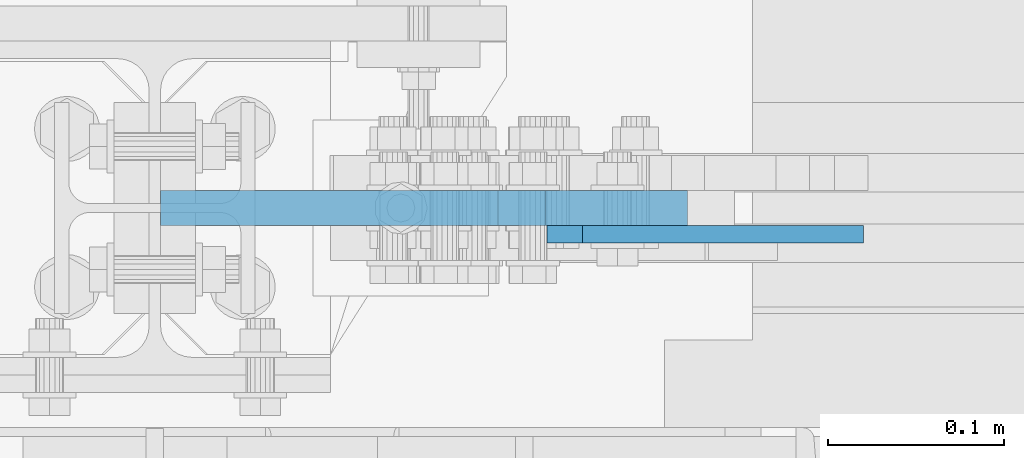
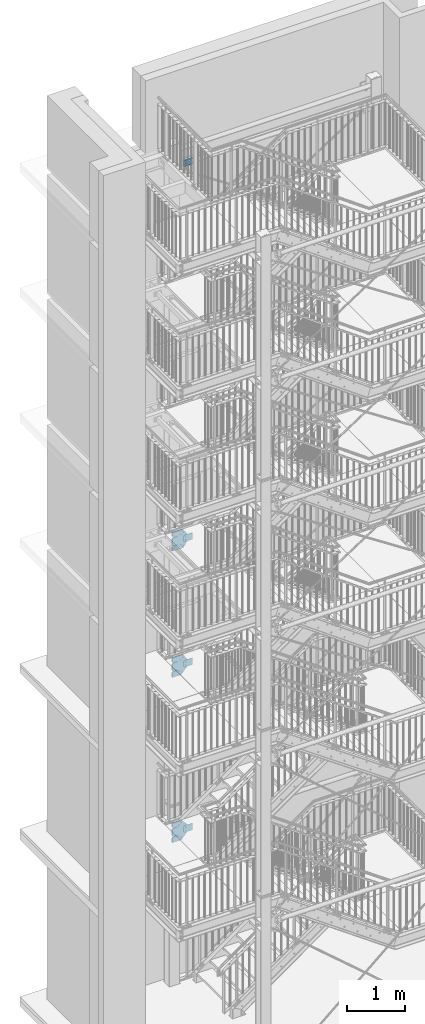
# One storey, part 181 of 825: 7 plates, 40 openings.
"""IFC2X3 building model written with IfcOpenShell, lengths in millimetres."""

from ifc_helpers import new_model, entity, si_unit, converted_unit, point, frame, frame_2d, origin, origin_with_axes, place, context, project, spatial, polyline, circle_curve, line_curve, trimmed, segment, composite_curve, circle, outline, extrude, material, layer, layer_set, element, save


model = new_model("IFC2X3")

# Units and contexts
model_context = context("Model", 3, precision=1e-09, world=origin_with_axes())
ifc_project = project(units=[si_unit("LENGTHUNIT", "METRE", prefix="MILLI"), si_unit("AREAUNIT", "SQUARE_METRE"), si_unit("VOLUMEUNIT", "CUBIC_METRE"), converted_unit("PLANEANGLEUNIT", "DEGREE", entity("IfcPlaneAngleMeasure", 0.01745329), si_unit("PLANEANGLEUNIT", "RADIAN"), dimensions=[0, 0, 0, 0, 0, 0, 0])], contexts=[model_context])

# Site, building, storey
site_placement = place(None, origin_with_axes())
site = spatial("IfcSite", under=ifc_project, at=site_placement, Name="Cnopf'sche Kinderklinik", CompositionType="ELEMENT")
building_placement = place(site_placement, origin_with_axes())
building = spatial("IfcBuilding", under=site, at=building_placement, Name="Struktur 1", CompositionType="ELEMENT")
storey_placement = place(building_placement, origin_with_axes())
storey = spatial("IfcBuildingStorey", under=building, at=storey_placement, Name="Default Storey", CompositionType="ELEMENT", Elevation=0.0)

# Plate, openings
ifc_material = material(Name="S235JR")
ifc_layer_1 = layer(ifc_material, 10.0)
ifc_layer_set_1 = layer_set([ifc_layer_1], Name="S235JR")
plate_1_placement = place(None, frame((5169.963401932, 7506.736971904, 17498.999996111), z_axis=(0.0, 1.0, 0.0), x_axis=(-1.0, 0.0, 0.0)))
plate_1 = element("IfcPlate", 1, at=plate_1_placement, inside=storey, material=ifc_layer_set_1, Name="-", ObjectType="-", context=model_context, shape_type="SweptSolid", body=[
    extrude(outline(polyline([(-90.0, -70.0), (90.0, -70.0), (90.0, 70.0), (-90.0, 70.0), (-90.0, -70.0)])), origin_with_axes(), (0.0, 0.0, -1.0), 10.0),
])
opening_1_placement = place(plate_1_placement, frame((90.0, -70.0, 0.01), z_axis=(0.0, 0.0, 1.0), x_axis=(0.0, 1.0, 0.0)))
element("IfcOpeningElement", 2, at=opening_1_placement, cuts=plate_1, ObjectType="Opening", context=model_context, shape_type="SweptSolid", body=[
    extrude(outline(polyline([(0.0, 0.0), (20.0, 0.0), (0.0, 20.0), (0.0, 0.0)])), origin(), (0.0, 0.0, -1.0), 10.02),
])
opening_2_placement = place(plate_1_placement, frame((90.0, 70.0, 0.01), z_axis=(0.0, 0.0, 1.0), x_axis=(-1.0, 0.0, 0.0)))
element("IfcOpeningElement", 3, at=opening_2_placement, cuts=plate_1, ObjectType="Opening", context=model_context, shape_type="SweptSolid", body=[
    extrude(outline(polyline([(0.0, 0.0), (20.0, 0.0), (0.0, 20.0), (0.0, 0.0)])), origin(), (0.0, 0.0, -1.0), 10.02),
])
opening_3_placement = place(plate_1_placement, frame((40.999, 30.0, 0.5), z_axis=(0.0, 0.0, 1.0), x_axis=(1.0, 0.0, 0.0)))
element("IfcOpeningElement", 4, at=opening_3_placement, cuts=plate_1, ObjectType="Opening", context=model_context, shape_type="SweptSolid", body=[
    extrude(circle(Radius=9.001, at=frame_2d((9.001, 0.0), x_axis=(1.0, 0.0))), origin(), (0.0, 0.0, -1.0), 11.0),
])
opening_4_placement = place(plate_1_placement, frame((40.999, -30.0, 0.5), z_axis=(0.0, 0.0, 1.0), x_axis=(1.0, 0.0, 0.0)))
element("IfcOpeningElement", 5, at=opening_4_placement, cuts=plate_1, ObjectType="Opening", context=model_context, shape_type="SweptSolid", body=[
    extrude(circle(Radius=9.001, at=frame_2d((9.001, 0.0), x_axis=(1.0, 0.0))), origin(), (0.0, 0.0, -1.0), 11.0),
])

plate_2_placement = place(None, frame((5169.963401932, 7506.736971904, 6984.999996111), z_axis=(0.0, 1.0, 0.0), x_axis=(-1.0, 0.0, 0.0)))
plate_2 = element("IfcPlate", 6, at=plate_2_placement, inside=storey, material=ifc_layer_set_1, Name="-", ObjectType="-", context=model_context, shape_type="SweptSolid", body=[
    extrude(outline(polyline([(-90.0, -70.0), (90.0, -70.0), (90.0, 70.0), (-90.0, 70.0), (-90.0, -70.0)])), origin_with_axes(), (0.0, 0.0, -1.0), 10.0),
])
opening_5_placement = place(plate_2_placement, frame((90.0, -70.0, 0.01), z_axis=(0.0, 0.0, 1.0), x_axis=(0.0, 1.0, 0.0)))
element("IfcOpeningElement", 7, at=opening_5_placement, cuts=plate_2, ObjectType="Opening", context=model_context, shape_type="SweptSolid", body=[
    extrude(outline(polyline([(0.0, 0.0), (20.0, 0.0), (0.0, 20.0), (0.0, 0.0)])), origin(), (0.0, 0.0, -1.0), 10.02),
])
opening_6_placement = place(plate_2_placement, frame((90.0, 70.0, 0.01), z_axis=(0.0, 0.0, 1.0), x_axis=(-1.0, 0.0, 0.0)))
element("IfcOpeningElement", 8, at=opening_6_placement, cuts=plate_2, ObjectType="Opening", context=model_context, shape_type="SweptSolid", body=[
    extrude(outline(polyline([(0.0, 0.0), (20.0, 0.0), (0.0, 20.0), (0.0, 0.0)])), origin(), (0.0, 0.0, -1.0), 10.02),
])
opening_7_placement = place(plate_2_placement, frame((40.999, 30.0, 0.5), z_axis=(0.0, 0.0, 1.0), x_axis=(1.0, 0.0, 0.0)))
element("IfcOpeningElement", 9, at=opening_7_placement, cuts=plate_2, ObjectType="Opening", context=model_context, shape_type="SweptSolid", body=[
    extrude(circle(Radius=9.001, at=frame_2d((9.001, 0.0), x_axis=(1.0, 0.0))), origin(), (0.0, 0.0, -1.0), 11.0),
])
opening_8_placement = place(plate_2_placement, frame((40.999, -30.0, 0.5), z_axis=(0.0, 0.0, 1.0), x_axis=(1.0, 0.0, 0.0)))
element("IfcOpeningElement", 10, at=opening_8_placement, cuts=plate_2, ObjectType="Opening", context=model_context, shape_type="SweptSolid", body=[
    extrude(circle(Radius=9.001, at=frame_2d((9.001, 0.0), x_axis=(1.0, 0.0))), origin(), (0.0, 0.0, -1.0), 11.0),
])

plate_3_placement = place(None, frame((5169.963401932, 7506.736971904, 3511.999996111), z_axis=(0.0, 1.0, 0.0), x_axis=(-1.0, 0.0, 0.0)))
plate_3 = element("IfcPlate", 11, at=plate_3_placement, inside=storey, material=ifc_layer_set_1, Name="-", ObjectType="-", context=model_context, shape_type="SweptSolid", body=[
    extrude(outline(polyline([(-90.0, -70.0), (90.0, -70.0), (90.0, 70.0), (-90.0, 70.0), (-90.0, -70.0)])), origin_with_axes(), (0.0, 0.0, -1.0), 10.0),
])
opening_9_placement = place(plate_3_placement, frame((90.0, -70.0, 0.01), z_axis=(0.0, 0.0, 1.0), x_axis=(0.0, 1.0, 0.0)))
element("IfcOpeningElement", 12, at=opening_9_placement, cuts=plate_3, ObjectType="Opening", context=model_context, shape_type="SweptSolid", body=[
    extrude(outline(polyline([(0.0, 0.0), (20.0, 0.0), (0.0, 20.0), (0.0, 0.0)])), origin(), (0.0, 0.0, -1.0), 10.02),
])
opening_10_placement = place(plate_3_placement, frame((90.0, 70.0, 0.01), z_axis=(0.0, 0.0, 1.0), x_axis=(-1.0, 0.0, 0.0)))
element("IfcOpeningElement", 13, at=opening_10_placement, cuts=plate_3, ObjectType="Opening", context=model_context, shape_type="SweptSolid", body=[
    extrude(outline(polyline([(0.0, 0.0), (20.0, 0.0), (0.0, 20.0), (0.0, 0.0)])), origin(), (0.0, 0.0, -1.0), 10.02),
])
opening_11_placement = place(plate_3_placement, frame((40.999, 30.0, 0.5), z_axis=(0.0, 0.0, 1.0), x_axis=(1.0, 0.0, 0.0)))
element("IfcOpeningElement", 14, at=opening_11_placement, cuts=plate_3, ObjectType="Opening", context=model_context, shape_type="SweptSolid", body=[
    extrude(circle(Radius=9.001, at=frame_2d((9.001, 0.0), x_axis=(1.0, 0.0))), origin(), (0.0, 0.0, -1.0), 11.0),
])
opening_12_placement = place(plate_3_placement, frame((40.999, -30.0, 0.5), z_axis=(0.0, 0.0, 1.0), x_axis=(1.0, 0.0, 0.0)))
element("IfcOpeningElement", 15, at=opening_12_placement, cuts=plate_3, ObjectType="Opening", context=model_context, shape_type="SweptSolid", body=[
    extrude(circle(Radius=9.001, at=frame_2d((9.001, 0.0), x_axis=(1.0, 0.0))), origin(), (0.0, 0.0, -1.0), 11.0),
])

plate_4_placement = place(None, frame((5169.963401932, 7506.736971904, 9616.999996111), z_axis=(0.0, 1.0, 0.0), x_axis=(-1.0, 0.0, 0.0)))
plate_4 = element("IfcPlate", 16, at=plate_4_placement, inside=storey, material=ifc_layer_set_1, Name="-", ObjectType="-", context=model_context, shape_type="SweptSolid", body=[
    extrude(outline(polyline([(-90.0, -70.0), (90.0, -70.0), (90.0, 70.0), (-90.0, 70.0), (-90.0, -70.0)])), origin_with_axes(), (0.0, 0.0, -1.0), 10.0),
])
opening_13_placement = place(plate_4_placement, frame((90.0, -70.0, 0.01), z_axis=(0.0, 0.0, 1.0), x_axis=(0.0, 1.0, 0.0)))
element("IfcOpeningElement", 17, at=opening_13_placement, cuts=plate_4, ObjectType="Opening", context=model_context, shape_type="SweptSolid", body=[
    extrude(outline(polyline([(0.0, 0.0), (20.0, 0.0), (0.0, 20.0), (0.0, 0.0)])), origin(), (0.0, 0.0, -1.0), 10.02),
])
opening_14_placement = place(plate_4_placement, frame((90.0, 70.0, 0.01), z_axis=(0.0, 0.0, 1.0), x_axis=(-1.0, 0.0, 0.0)))
element("IfcOpeningElement", 18, at=opening_14_placement, cuts=plate_4, ObjectType="Opening", context=model_context, shape_type="SweptSolid", body=[
    extrude(outline(polyline([(0.0, 0.0), (20.0, 0.0), (0.0, 20.0), (0.0, 0.0)])), origin(), (0.0, 0.0, -1.0), 10.02),
])
opening_15_placement = place(plate_4_placement, frame((40.999, 30.0, 0.5), z_axis=(0.0, 0.0, 1.0), x_axis=(1.0, 0.0, 0.0)))
element("IfcOpeningElement", 19, at=opening_15_placement, cuts=plate_4, ObjectType="Opening", context=model_context, shape_type="SweptSolid", body=[
    extrude(circle(Radius=9.001, at=frame_2d((9.001, 0.0), x_axis=(1.0, 0.0))), origin(), (0.0, 0.0, -1.0), 11.0),
])
opening_16_placement = place(plate_4_placement, frame((40.999, -30.0, 0.5), z_axis=(0.0, 0.0, 1.0), x_axis=(1.0, 0.0, 0.0)))
element("IfcOpeningElement", 20, at=opening_16_placement, cuts=plate_4, ObjectType="Opening", context=model_context, shape_type="SweptSolid", body=[
    extrude(circle(Radius=9.001, at=frame_2d((9.001, 0.0), x_axis=(1.0, 0.0))), origin(), (0.0, 0.0, -1.0), 11.0),
])

ifc_layer_2 = layer(ifc_material, 20.0)
ifc_layer_set_2 = layer_set([ifc_layer_2], Name="S235JR")
plate_5_placement = place(None, frame((4859.963402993, 7506.736971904, 3302.430347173), z_axis=(0.0, 1.0, 0.0), x_axis=(0.0, 0.0, 1.0)))
plate_5 = element("IfcPlate", 21, at=plate_5_placement, inside=storey, material=ifc_layer_set_2, Name="-", ObjectType="-", context=model_context, shape_type="SweptSolid", body=[
    extrude(outline(polyline([(0.0, 0.0), (403.206365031, 0.0), (403.206365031, 192.087654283), (279.569648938, 300.0), (139.569648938, 300.0), (0.0, 181.139563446), (0.0, 0.0)])), origin_with_axes(), (0.0, 0.0, 1.0), 20.0),
])
opening_17_placement = place(plate_5_placement, frame((0.0, 0.0, -0.1), z_axis=(0.0, 0.0, 1.0), x_axis=(0.0, -1.0, 0.0)))
element("IfcOpeningElement", 22, at=opening_17_placement, cuts=plate_5, ObjectType="Opening", context=model_context, shape_type="SweptSolid", body=[
    extrude(outline(composite_curve([segment(trimmed(line_curve((20.001, 145.570652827), (-1.0, 0.0), 20.001414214), [point((20.001, 145.570652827))], [point((-0.000414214, 145.570652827))], True, "CARTESIAN"), True, "CONTINUOUS"), segment(trimmed(line_curve((-0.000414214, 145.570652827), (-0.707106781, -0.707106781), 28.284271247), [point((-0.000414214, 145.570652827))], [point((-20.000414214, 125.570652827))], True, "CARTESIAN"), True, "CONTINUOUS"), segment(trimmed(line_curve((-20.000414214, 125.570652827), (-1.0, 0.0), 77.749585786), [point((-20.000414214, 125.570652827))], [point((-97.75, 125.570652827))], True, "CARTESIAN"), True, "CONTINUOUS"), segment(trimmed(circle_curve(frame_2d((-97.75, 119.569652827), x_axis=(1.0, 0.0)), 6.001), [point((-97.75, 125.570652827))], [point((-97.75, 113.568652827))], True, "CARTESIAN"), True, "CONTINUOUS"), segment(trimmed(line_curve((-97.75, 113.568652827), (1.0, 0.0), 77.749585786), [point((-97.75, 113.568652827))], [point((-20.000414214, 113.568652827))], True, "CARTESIAN"), True, "CONTINUOUS"), segment(trimmed(line_curve((-20.000414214, 113.568652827), (0.707106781, -0.707106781), 28.284271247), [point((-20.000414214, 113.568652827))], [point((-0.000414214, 93.568652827))], True, "CARTESIAN"), True, "CONTINUOUS"), segment(trimmed(line_curve((-0.000414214, 93.568652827), (1.0, 0.0), 20.001414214), [point((-0.000414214, 93.568652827))], [point((20.001, 93.568652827))], True, "CARTESIAN"), True, "CONTINUOUS"), segment(trimmed(line_curve((20.001, 93.568652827), (0.0, 1.0), 52.002), [point((20.001, 93.568652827))], [point((20.001, 145.570652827))], True, "CARTESIAN"), True, "CONTINUOUS")], self_intersect=False)), origin(), (0.0, 0.0, 1.0), 20.2),
])
opening_18_placement = place(plate_5_placement, frame((0.0, 0.0, -0.1), z_axis=(0.0, 0.0, 1.0), x_axis=(0.0, -1.0, 0.0)))
element("IfcOpeningElement", 23, at=opening_18_placement, cuts=plate_5, ObjectType="Opening", context=model_context, shape_type="SweptSolid", body=[
    extrude(outline(composite_curve([segment(trimmed(line_curve((20.001, 325.570652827), (-1.0, 0.0), 20.001414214), [point((20.001, 325.570652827))], [point((-0.000414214, 325.570652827))], True, "CARTESIAN"), True, "CONTINUOUS"), segment(trimmed(line_curve((-0.000414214, 325.570652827), (-0.707106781, -0.707106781), 28.284271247), [point((-0.000414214, 325.570652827))], [point((-20.000414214, 305.570652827))], True, "CARTESIAN"), True, "CONTINUOUS"), segment(trimmed(line_curve((-20.000414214, 305.570652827), (-1.0, 0.0), 77.749584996), [point((-20.000414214, 305.570652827))], [point((-97.749999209, 305.570652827))], True, "CARTESIAN"), True, "CONTINUOUS"), segment(trimmed(circle_curve(frame_2d((-97.75, 299.569652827), x_axis=(1.0, 0.0)), 6.001), [point((-97.749999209, 305.570652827))], [point((-97.75, 293.568652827))], True, "CARTESIAN"), True, "CONTINUOUS"), segment(trimmed(line_curve((-97.75, 293.568652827), (1.0, 0.0), 77.749585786), [point((-97.75, 293.568652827))], [point((-20.000414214, 293.568652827))], True, "CARTESIAN"), True, "CONTINUOUS"), segment(trimmed(line_curve((-20.000414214, 293.568652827), (0.707106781, -0.707106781), 28.284271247), [point((-20.000414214, 293.568652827))], [point((-0.000414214, 273.568652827))], True, "CARTESIAN"), True, "CONTINUOUS"), segment(trimmed(line_curve((-0.000414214, 273.568652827), (1.0, 0.0), 20.001414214), [point((-0.000414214, 273.568652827))], [point((20.001, 273.568652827))], True, "CARTESIAN"), True, "CONTINUOUS"), segment(trimmed(line_curve((20.001, 273.568652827), (0.0, 1.0), 52.002), [point((20.001, 273.568652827))], [point((20.001, 325.570652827))], True, "CARTESIAN"), True, "CONTINUOUS")], self_intersect=False)), origin(), (0.0, 0.0, 1.0), 20.2),
])
opening_19_placement = place(plate_5_placement, frame((239.569648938, 269.000998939, 20.5), z_axis=(0.0, 0.0, 1.0), x_axis=(1.0, 0.0, 0.0)))
element("IfcOpeningElement", 24, at=opening_19_placement, cuts=plate_5, ObjectType="Opening", context=model_context, shape_type="SweptSolid", body=[
    extrude(circle(Radius=9.001, at=frame_2d((0.0, -9.001), x_axis=(1.0, 0.0))), origin(), (0.0, 0.0, -1.0), 21.0),
])
opening_20_placement = place(plate_5_placement, frame((179.569648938, 269.000998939, 20.5), z_axis=(0.0, 0.0, 1.0), x_axis=(1.0, 0.0, 0.0)))
element("IfcOpeningElement", 25, at=opening_20_placement, cuts=plate_5, ObjectType="Opening", context=model_context, shape_type="SweptSolid", body=[
    extrude(circle(Radius=9.001, at=frame_2d((0.0, -9.001), x_axis=(1.0, 0.0))), origin(), (0.0, 0.0, -1.0), 21.0),
])
opening_21_placement = place(plate_5_placement, frame((346.603005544, 154.971640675, 20.5), z_axis=(0.0, 0.0, -1.0), x_axis=(0.654679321, 0.755906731, 0.0)))
element("IfcOpeningElement", 26, at=opening_21_placement, cuts=plate_5, ObjectType="Opening", context=model_context, shape_type="SweptSolid", body=[
    extrude(circle(Radius=9.001, at=frame_2d((30.0, 0.0), x_axis=(1.0, 0.0))), origin(), (0.0, 0.0, 1.0), 21.0),
])
opening_22_placement = place(plate_5_placement, frame((346.603005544, 154.971640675, 20.5), z_axis=(0.0, 0.0, -1.0), x_axis=(0.654679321, 0.755906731, 0.0)))
element("IfcOpeningElement", 27, at=opening_22_placement, cuts=plate_5, ObjectType="Opening", context=model_context, shape_type="SweptSolid", body=[
    extrude(circle(Radius=9.001, at=frame_2d((-30.0, 0.0), x_axis=(1.0, 0.0))), origin(), (0.0, 0.0, 1.0), 21.0),
])
opening_23_placement = place(plate_5_placement, frame((58.040085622, 172.773623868, 20.5), z_axis=(0.0, 0.0, 1.0), x_axis=(1.0, 0.0, 0.0)))
element("IfcOpeningElement", 28, at=opening_23_placement, cuts=plate_5, ObjectType="Opening", context=model_context, shape_type="SweptSolid", body=[
    extrude(circle(Radius=9.001, at=frame_2d((-5.872329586, 6.821564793), x_axis=(1.0, 0.0))), origin(), (0.0, 0.0, -1.0), 21.0),
])
opening_24_placement = place(plate_5_placement, frame((97.18460014, 127.301577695, 20.5), z_axis=(0.0, 0.0, 1.0), x_axis=(1.0, 0.0, 0.0)))
element("IfcOpeningElement", 29, at=opening_24_placement, cuts=plate_5, ObjectType="Opening", context=model_context, shape_type="SweptSolid", body=[
    extrude(circle(Radius=9.001, at=frame_2d((-5.872329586, 6.821564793), x_axis=(1.0, 0.0))), origin(), (0.0, 0.0, -1.0), 21.0),
])

plate_6_placement = place(None, frame((4859.963402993, 7526.736971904, 7178.428402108), z_axis=(0.0, -1.0, 0.0), x_axis=(0.0, 0.0, -1.0)))
plate_6 = element("IfcPlate", 30, at=plate_6_placement, inside=storey, material=ifc_layer_set_2, Name="-", ObjectType="-", context=model_context, shape_type="SweptSolid", body=[
    extrude(outline(polyline([(0.0, 0.0), (404.06512209, 0.0), (404.06512209, 177.249749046), (263.428405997, 300.0), (123.428405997, 300.0), (0.0, 219.202103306), (0.0, 0.0)])), origin_with_axes(), (0.0, 0.0, 1.0), 20.0),
])
opening_25_placement = place(plate_6_placement, frame((0.0, 0.0, 20.1), z_axis=(0.0, 0.0, -1.0), x_axis=(0.0, -1.0, 0.0)))
element("IfcOpeningElement", 31, at=opening_25_placement, cuts=plate_6, ObjectType="Opening", context=model_context, shape_type="SweptSolid", body=[
    extrude(outline(composite_curve([segment(trimmed(line_curve((20.001, -257.427402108), (-1.0, 0.0), 20.001414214), [point((20.001, -257.427402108))], [point((-0.000414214, -257.427402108))], True, "CARTESIAN"), True, "CONTINUOUS"), segment(trimmed(line_curve((-0.000414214, -257.427402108), (-0.707106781, -0.707106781), 28.284271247), [point((-0.000414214, -257.427402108))], [point((-20.000414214, -277.427402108))], True, "CARTESIAN"), True, "CONTINUOUS"), segment(trimmed(line_curve((-20.000414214, -277.427402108), (-1.0, 0.0), 77.749584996), [point((-20.000414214, -277.427402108))], [point((-97.749999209, -277.427402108))], True, "CARTESIAN"), True, "CONTINUOUS"), segment(trimmed(circle_curve(frame_2d((-97.75, -283.428402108), x_axis=(1.0, 0.0)), 6.001), [point((-97.749999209, -277.427402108))], [point((-97.75, -289.429402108))], True, "CARTESIAN"), True, "CONTINUOUS"), segment(trimmed(line_curve((-97.75, -289.429402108), (1.0, 0.0), 77.749585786), [point((-97.75, -289.429402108))], [point((-20.000414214, -289.429402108))], True, "CARTESIAN"), True, "CONTINUOUS"), segment(trimmed(line_curve((-20.000414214, -289.429402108), (0.707106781, -0.707106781), 28.284271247), [point((-20.000414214, -289.429402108))], [point((-0.000414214, -309.429402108))], True, "CARTESIAN"), True, "CONTINUOUS"), segment(trimmed(line_curve((-0.000414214, -309.429402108), (1.0, 0.0), 20.001414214), [point((-0.000414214, -309.429402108))], [point((20.001, -309.429402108))], True, "CARTESIAN"), True, "CONTINUOUS"), segment(trimmed(line_curve((20.001, -309.429402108), (0.0, 1.0), 52.002), [point((20.001, -309.429402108))], [point((20.001, -257.427402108))], True, "CARTESIAN"), True, "CONTINUOUS")], self_intersect=False)), origin(), (0.0, 0.0, 1.0), 20.2),
])
opening_26_placement = place(plate_6_placement, frame((0.0, 0.0, 20.1), z_axis=(0.0, 0.0, -1.0), x_axis=(0.0, -1.0, 0.0)))
element("IfcOpeningElement", 32, at=opening_26_placement, cuts=plate_6, ObjectType="Opening", context=model_context, shape_type="SweptSolid", body=[
    extrude(outline(composite_curve([segment(trimmed(line_curve((20.001, -77.427402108), (-1.0, 0.0), 20.001414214), [point((20.001, -77.427402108))], [point((-0.000414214, -77.427402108))], True, "CARTESIAN"), True, "CONTINUOUS"), segment(trimmed(line_curve((-0.000414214, -77.427402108), (-0.707106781, -0.707106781), 28.284271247), [point((-0.000414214, -77.427402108))], [point((-20.000414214, -97.427402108))], True, "CARTESIAN"), True, "CONTINUOUS"), segment(trimmed(line_curve((-20.000414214, -97.427402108), (-1.0, 0.0), 77.749585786), [point((-20.000414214, -97.427402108))], [point((-97.75, -97.427402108))], True, "CARTESIAN"), True, "CONTINUOUS"), segment(trimmed(circle_curve(frame_2d((-97.75, -103.428402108), x_axis=(1.0, 0.0)), 6.001), [point((-97.75, -97.427402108))], [point((-97.75, -109.429402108))], True, "CARTESIAN"), True, "CONTINUOUS"), segment(trimmed(line_curve((-97.75, -109.429402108), (1.0, 0.0), 77.749585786), [point((-97.75, -109.429402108))], [point((-20.000414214, -109.429402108))], True, "CARTESIAN"), True, "CONTINUOUS"), segment(trimmed(line_curve((-20.000414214, -109.429402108), (0.707106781, -0.707106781), 28.284271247), [point((-20.000414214, -109.429402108))], [point((-0.000414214, -129.429402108))], True, "CARTESIAN"), True, "CONTINUOUS"), segment(trimmed(line_curve((-0.000414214, -129.429402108), (1.0, 0.0), 20.001414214), [point((-0.000414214, -129.429402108))], [point((20.001, -129.429402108))], True, "CARTESIAN"), True, "CONTINUOUS"), segment(trimmed(line_curve((20.001, -129.429402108), (0.0, 1.0), 52.002), [point((20.001, -129.429402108))], [point((20.001, -77.427402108))], True, "CARTESIAN"), True, "CONTINUOUS")], self_intersect=False)), origin(), (0.0, 0.0, 1.0), 20.2),
])
opening_27_placement = place(plate_6_placement, frame((163.428405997, 269.000998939, -0.5), z_axis=(0.0, 0.0, -1.0), x_axis=(-1.0, 0.0, 0.0)))
element("IfcOpeningElement", 33, at=opening_27_placement, cuts=plate_6, ObjectType="Opening", context=model_context, shape_type="SweptSolid", body=[
    extrude(circle(Radius=9.001, at=frame_2d((0.0, -9.001), x_axis=(1.0, 0.0))), origin(), (0.0, 0.0, -1.0), 21.0),
])
opening_28_placement = place(plate_6_placement, frame((223.428405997, 269.000998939, -0.5), z_axis=(0.0, 0.0, -1.0), x_axis=(-1.0, 0.0, 0.0)))
element("IfcOpeningElement", 34, at=opening_28_placement, cuts=plate_6, ObjectType="Opening", context=model_context, shape_type="SweptSolid", body=[
    extrude(circle(Radius=9.001, at=frame_2d((0.0, -9.001), x_axis=(1.0, 0.0))), origin(), (0.0, 0.0, -1.0), 21.0),
])
opening_29_placement = place(plate_6_placement, frame((344.33129579, 170.985700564, -0.5), z_axis=(0.0, 0.0, -1.0), x_axis=(-1.0, 0.0, 0.0)))
element("IfcOpeningElement", 35, at=opening_29_placement, cuts=plate_6, ObjectType="Opening", context=model_context, shape_type="SweptSolid", body=[
    extrude(circle(Radius=9.001, at=frame_2d((-5.89276857, 6.803916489), x_axis=(1.0, 0.0))), origin(), (0.0, 0.0, -1.0), 21.0),
])
opening_30_placement = place(plate_6_placement, frame((305.05053652, 125.631296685, -0.5), z_axis=(0.0, 0.0, -1.0), x_axis=(-1.0, 0.0, 0.0)))
element("IfcOpeningElement", 36, at=opening_30_placement, cuts=plate_6, ObjectType="Opening", context=model_context, shape_type="SweptSolid", body=[
    extrude(circle(Radius=9.001, at=frame_2d((-5.89276857, 6.803916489), x_axis=(1.0, 0.0))), origin(), (0.0, 0.0, -1.0), 21.0),
])
opening_31_placement = place(plate_6_placement, frame((68.943929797, 186.431670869, -0.5), z_axis=(0.0, 0.0, 1.0), x_axis=(-0.548722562, 0.836004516, 0.0)))
element("IfcOpeningElement", 37, at=opening_31_placement, cuts=plate_6, ObjectType="Opening", context=model_context, shape_type="SweptSolid", body=[
    extrude(circle(Radius=9.001, at=frame_2d((30.0, 0.0), x_axis=(1.0, 0.0))), origin(), (0.0, 0.0, 1.0), 21.0),
])
opening_32_placement = place(plate_6_placement, frame((68.943929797, 186.431670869, -0.5), z_axis=(0.0, 0.0, 1.0), x_axis=(-0.548722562, 0.836004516, 0.0)))
element("IfcOpeningElement", 38, at=opening_32_placement, cuts=plate_6, ObjectType="Opening", context=model_context, shape_type="SweptSolid", body=[
    extrude(circle(Radius=9.001, at=frame_2d((-30.0, 0.0), x_axis=(1.0, 0.0))), origin(), (0.0, 0.0, 1.0), 21.0),
])

plate_7_placement = place(None, frame((4859.963402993, 7526.736971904, 9810.428402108), z_axis=(0.0, -1.0, 0.0), x_axis=(0.0, 0.0, -1.0)))
plate_7 = element("IfcPlate", 39, at=plate_7_placement, inside=storey, material=ifc_layer_set_2, Name="-", ObjectType="-", context=model_context, shape_type="SweptSolid", body=[
    extrude(outline(polyline([(0.0, 0.0), (386.856811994, 0.0), (386.856811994, 219.202103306), (263.428405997, 300.0), (123.428405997, 300.0), (0.0, 219.202103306), (0.0, 0.0)])), origin_with_axes(), (0.0, 0.0, 1.0), 20.0),
])
opening_33_placement = place(plate_7_placement, frame((0.0, 0.0, 20.1), z_axis=(0.0, 0.0, -1.0), x_axis=(0.0, -1.0, 0.0)))
element("IfcOpeningElement", 40, at=opening_33_placement, cuts=plate_7, ObjectType="Opening", context=model_context, shape_type="SweptSolid", body=[
    extrude(outline(composite_curve([segment(trimmed(line_curve((20.001, -257.427402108), (-1.0, 0.0), 20.001414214), [point((20.001, -257.427402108))], [point((-0.000414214, -257.427402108))], True, "CARTESIAN"), True, "CONTINUOUS"), segment(trimmed(line_curve((-0.000414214, -257.427402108), (-0.707106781, -0.707106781), 28.284271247), [point((-0.000414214, -257.427402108))], [point((-20.000414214, -277.427402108))], True, "CARTESIAN"), True, "CONTINUOUS"), segment(trimmed(line_curve((-20.000414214, -277.427402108), (-1.0, 0.0), 77.749584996), [point((-20.000414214, -277.427402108))], [point((-97.749999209, -277.427402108))], True, "CARTESIAN"), True, "CONTINUOUS"), segment(trimmed(circle_curve(frame_2d((-97.75, -283.428402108), x_axis=(1.0, 0.0)), 6.001), [point((-97.749999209, -277.427402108))], [point((-97.75, -289.429402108))], True, "CARTESIAN"), True, "CONTINUOUS"), segment(trimmed(line_curve((-97.75, -289.429402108), (1.0, 0.0), 77.749585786), [point((-97.75, -289.429402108))], [point((-20.000414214, -289.429402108))], True, "CARTESIAN"), True, "CONTINUOUS"), segment(trimmed(line_curve((-20.000414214, -289.429402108), (0.707106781, -0.707106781), 28.284271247), [point((-20.000414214, -289.429402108))], [point((-0.000414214, -309.429402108))], True, "CARTESIAN"), True, "CONTINUOUS"), segment(trimmed(line_curve((-0.000414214, -309.429402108), (1.0, 0.0), 20.001414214), [point((-0.000414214, -309.429402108))], [point((20.001, -309.429402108))], True, "CARTESIAN"), True, "CONTINUOUS"), segment(trimmed(line_curve((20.001, -309.429402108), (0.0, 1.0), 52.002), [point((20.001, -309.429402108))], [point((20.001, -257.427402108))], True, "CARTESIAN"), True, "CONTINUOUS")], self_intersect=False)), origin(), (0.0, 0.0, 1.0), 20.2),
])
opening_34_placement = place(plate_7_placement, frame((0.0, 0.0, 20.1), z_axis=(0.0, 0.0, -1.0), x_axis=(0.0, -1.0, 0.0)))
element("IfcOpeningElement", 41, at=opening_34_placement, cuts=plate_7, ObjectType="Opening", context=model_context, shape_type="SweptSolid", body=[
    extrude(outline(composite_curve([segment(trimmed(line_curve((20.001, -77.427402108), (-1.0, 0.0), 20.001414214), [point((20.001, -77.427402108))], [point((-0.000414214, -77.427402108))], True, "CARTESIAN"), True, "CONTINUOUS"), segment(trimmed(line_curve((-0.000414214, -77.427402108), (-0.707106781, -0.707106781), 28.284271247), [point((-0.000414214, -77.427402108))], [point((-20.000414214, -97.427402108))], True, "CARTESIAN"), True, "CONTINUOUS"), segment(trimmed(line_curve((-20.000414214, -97.427402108), (-1.0, 0.0), 77.749585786), [point((-20.000414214, -97.427402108))], [point((-97.75, -97.427402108))], True, "CARTESIAN"), True, "CONTINUOUS"), segment(trimmed(circle_curve(frame_2d((-97.75, -103.428402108), x_axis=(1.0, 0.0)), 6.001), [point((-97.75, -97.427402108))], [point((-97.75, -109.429402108))], True, "CARTESIAN"), True, "CONTINUOUS"), segment(trimmed(line_curve((-97.75, -109.429402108), (1.0, 0.0), 77.749585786), [point((-97.75, -109.429402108))], [point((-20.000414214, -109.429402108))], True, "CARTESIAN"), True, "CONTINUOUS"), segment(trimmed(line_curve((-20.000414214, -109.429402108), (0.707106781, -0.707106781), 28.284271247), [point((-20.000414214, -109.429402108))], [point((-0.000414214, -129.429402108))], True, "CARTESIAN"), True, "CONTINUOUS"), segment(trimmed(line_curve((-0.000414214, -129.429402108), (1.0, 0.0), 20.001414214), [point((-0.000414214, -129.429402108))], [point((20.001, -129.429402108))], True, "CARTESIAN"), True, "CONTINUOUS"), segment(trimmed(line_curve((20.001, -129.429402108), (0.0, 1.0), 52.002), [point((20.001, -129.429402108))], [point((20.001, -77.427402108))], True, "CARTESIAN"), True, "CONTINUOUS")], self_intersect=False)), origin(), (0.0, 0.0, 1.0), 20.2),
])
opening_35_placement = place(plate_7_placement, frame((163.428405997, 269.000998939, -0.5), z_axis=(0.0, 0.0, -1.0), x_axis=(-1.0, 0.0, 0.0)))
element("IfcOpeningElement", 42, at=opening_35_placement, cuts=plate_7, ObjectType="Opening", context=model_context, shape_type="SweptSolid", body=[
    extrude(circle(Radius=9.001, at=frame_2d((0.0, -9.001), x_axis=(1.0, 0.0))), origin(), (0.0, 0.0, -1.0), 21.0),
])
opening_36_placement = place(plate_7_placement, frame((223.428405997, 269.000998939, -0.5), z_axis=(0.0, 0.0, -1.0), x_axis=(-1.0, 0.0, 0.0)))
element("IfcOpeningElement", 43, at=opening_36_placement, cuts=plate_7, ObjectType="Opening", context=model_context, shape_type="SweptSolid", body=[
    extrude(circle(Radius=9.001, at=frame_2d((0.0, -9.001), x_axis=(1.0, 0.0))), origin(), (0.0, 0.0, -1.0), 21.0),
])
opening_37_placement = place(plate_7_placement, frame((329.531485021, 204.110694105, -0.5), z_axis=(0.0, 0.0, -1.0), x_axis=(-1.0, 0.0, 0.0)))
element("IfcOpeningElement", 44, at=opening_37_placement, cuts=plate_7, ObjectType="Opening", context=model_context, shape_type="SweptSolid", body=[
    extrude(circle(Radius=9.001, at=frame_2d((-4.939030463, 7.524890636), x_axis=(1.0, 0.0))), origin(), (0.0, 0.0, -1.0), 21.0),
])
opening_38_placement = place(plate_7_placement, frame((296.608273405, 153.950329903, -0.5), z_axis=(0.0, 0.0, -1.0), x_axis=(-1.0, 0.0, 0.0)))
element("IfcOpeningElement", 45, at=opening_38_placement, cuts=plate_7, ObjectType="Opening", context=model_context, shape_type="SweptSolid", body=[
    extrude(circle(Radius=9.001, at=frame_2d((-4.939030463, 7.524890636), x_axis=(1.0, 0.0))), origin(), (0.0, 0.0, -1.0), 21.0),
])
opening_39_placement = place(plate_7_placement, frame((69.052088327, 186.502432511, -0.5), z_axis=(0.0, 0.0, 1.0), x_axis=(-0.54798027, 0.836491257, 0.0)))
element("IfcOpeningElement", 46, at=opening_39_placement, cuts=plate_7, ObjectType="Opening", context=model_context, shape_type="SweptSolid", body=[
    extrude(circle(Radius=9.001, at=frame_2d((30.0, 0.0), x_axis=(1.0, 0.0))), origin(), (0.0, 0.0, 1.0), 21.0),
])
opening_40_placement = place(plate_7_placement, frame((69.052088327, 186.502432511, -0.5), z_axis=(0.0, 0.0, 1.0), x_axis=(-0.54798027, 0.836491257, 0.0)))
element("IfcOpeningElement", 47, at=opening_40_placement, cuts=plate_7, ObjectType="Opening", context=model_context, shape_type="SweptSolid", body=[
    extrude(circle(Radius=9.001, at=frame_2d((-30.0, 0.0), x_axis=(1.0, 0.0))), origin(), (0.0, 0.0, 1.0), 21.0),
])

save(model, "model.ifc")
